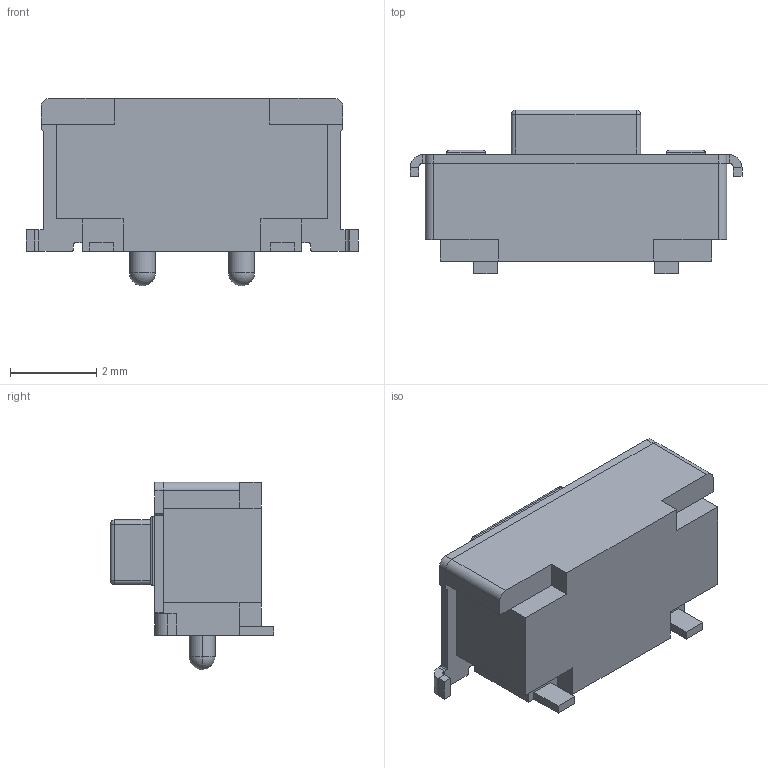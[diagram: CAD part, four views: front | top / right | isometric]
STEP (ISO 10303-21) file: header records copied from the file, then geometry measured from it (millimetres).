
FILE_DESCRIPTION(('Designed by EasyEDA Pro'),'2;1');
FILE_NAME('Open CASCADE Shape Model','2026-02-02T11:32:54',('Author'),( 'Open CASCADE'),'Open CASCADE STEP processor 7.6','Open CASCADE 7.8' ,'Unknown');
FILE_SCHEMA(('AUTOMOTIVE_DESIGN_CC2 { 1 2 10303 214 -1 1 5 4 }'));
Length unit declared in the file: millimetre
Products named in the file (4): PCBModel; WoV1-SW1; SW-SMD_TSB001XXXX; COMPOUND
Assembly tree (3 placements, depth 4):
  PCBModel
    WoV1-SW1
      SW-SMD_TSB001XXXX
        COMPOUND
Bounding box: 7.7 x 3.79 x 4.35 mm (x, y, z)
Volume: 58.2 mm3; surface area: 167.5 mm2
Topology: 7 solids, 7 shells, 197 faces, 494 edges, 312 vertices
Faces by surface type: plane 137, cylinder 38, bspline 14, sphere 8
Entity records: 7869 total; most frequent: CARTESIAN_POINT 1821, ORIENTED_EDGE 972, DIRECTION 892, EDGE_CURVE 486, LINE 382, VECTOR 382, VERTEX_POINT 312, AXIS2_PLACEMENT_3D 255
